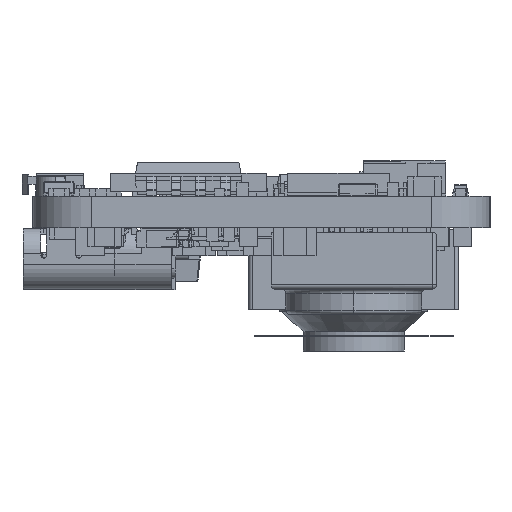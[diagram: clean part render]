
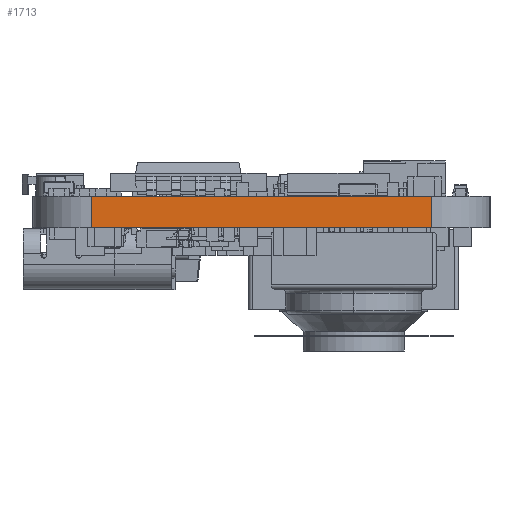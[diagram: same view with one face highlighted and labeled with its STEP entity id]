
A CAD part, left-side view. The second image highlights one B-rep face of the part: STEP entity #1713.
In plain terms, the highlighted planar face has unit normal (-1, 0, 0).
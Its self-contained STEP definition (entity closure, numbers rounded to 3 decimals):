
#1169 = EDGE_CURVE('',#1170,#1172,#1174,.T.);
#1170 = VERTEX_POINT('',#1171);
#1171 = CARTESIAN_POINT('',(0.,2.994,0.)
  );
#1172 = VERTEX_POINT('',#1173);
#1173 = CARTESIAN_POINT('',(0.,2.994,
    1.6));
#1174 = LINE('',#1175,#1176);
#1175 = CARTESIAN_POINT('',(0.,2.994,0.)
  );
#1176 = VECTOR('',#1177,1.);
#1177 = DIRECTION('',(0.,0.,1.));
#1686 = VERTEX_POINT('',#1687);
#1687 = CARTESIAN_POINT('',(0.,20.486,1.6));
#1694 = EDGE_CURVE('',#1695,#1686,#1697,.T.);
#1695 = VERTEX_POINT('',#1696);
#1696 = CARTESIAN_POINT('',(0.,20.486,0.));
#1697 = LINE('',#1698,#1699);
#1698 = CARTESIAN_POINT('',(0.,20.486,0.));
#1699 = VECTOR('',#1700,1.);
#1700 = DIRECTION('',(0.,0.,1.));
#1713 = ADVANCED_FACE('',(#1714),#1730,.F.);
#1714 = FACE_BOUND('',#1715,.F.);
#1715 = EDGE_LOOP('',(#1716,#1717,#1723,#1724));
#1716 = ORIENTED_EDGE('',*,*,#1694,.T.);
#1717 = ORIENTED_EDGE('',*,*,#1718,.T.);
#1718 = EDGE_CURVE('',#1686,#1172,#1719,.T.);
#1719 = LINE('',#1720,#1721);
#1720 = CARTESIAN_POINT('',(0.,20.486,1.6));
#1721 = VECTOR('',#1722,1.);
#1722 = DIRECTION('',(0.,-1.,0.));
#1723 = ORIENTED_EDGE('',*,*,#1169,.F.);
#1724 = ORIENTED_EDGE('',*,*,#1725,.F.);
#1725 = EDGE_CURVE('',#1695,#1170,#1726,.T.);
#1726 = LINE('',#1727,#1728);
#1727 = CARTESIAN_POINT('',(0.,20.486,0.));
#1728 = VECTOR('',#1729,1.);
#1729 = DIRECTION('',(0.,-1.,0.));
#1730 = PLANE('',#1731);
#1731 = AXIS2_PLACEMENT_3D('',#1732,#1733,#1734);
#1732 = CARTESIAN_POINT('',(0.,20.486,0.));
#1733 = DIRECTION('',(1.,0.,0.));
#1734 = DIRECTION('',(0.,-1.,0.));
